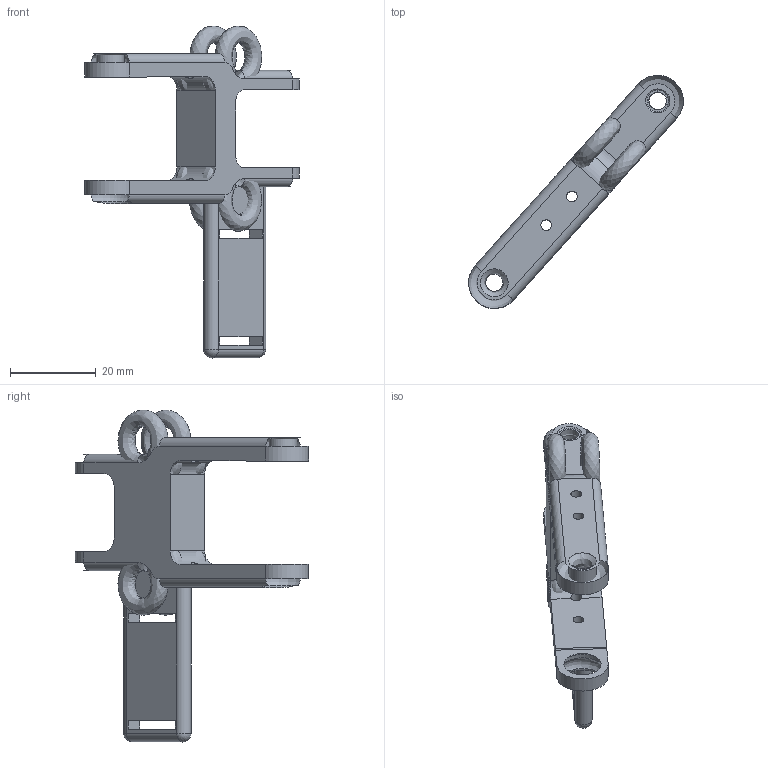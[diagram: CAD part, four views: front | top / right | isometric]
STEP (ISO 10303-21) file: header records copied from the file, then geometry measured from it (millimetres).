
FILE_DESCRIPTION(('Open CASCADE Model'),'2;1');
FILE_NAME('Open CASCADE Shape Model','2026-11-14T14:47:07',('Author'),( 'Open CASCADE'),'Open CASCADE STEP processor 8.0','Open CASCADE 8.0' ,'Unknown');
FILE_SCHEMA(('AUTOMOTIVE_DESIGN { 1 0 10303 214 1 1 1 1 }'));
Length unit declared in the file: millimetre
Products named in the file (1): Open CASCADE STEP translator 8.0 1
Bounding box: 50.2 x 54.49 x 77.58 mm (x, y, z)
Volume: 8547.4 mm3; surface area: 10399.2 mm2
Topology: 1 solids, 1 shells, 85 faces, 261 edges, 163 vertices
Faces by surface type: cylinder 39, plane 29, revolution 12, cone 3, sphere 2
Full cylindrical faces by diameter (mm): 2.5 x4, 4.2 x2, 6.5 x1, 7.07 x1, 10.57 x1
Entity records: 12163 total; most frequent: CARTESIAN_POINT 7117, DIRECTION 900, ORIENTED_EDGE 518, PCURVE 518, DEFINITIONAL_REPRESENTATION 518, LINE 509, VECTOR 509, EDGE_CURVE 259
